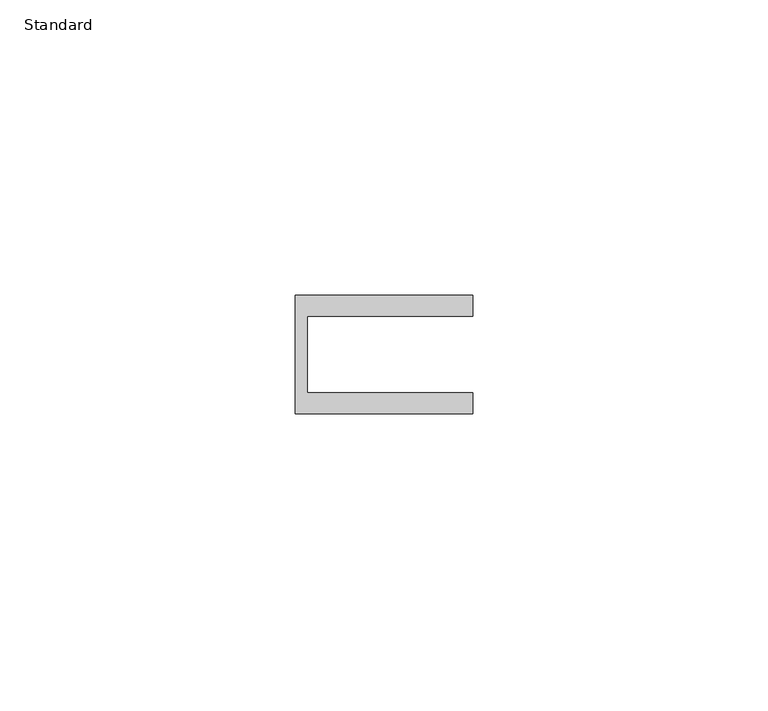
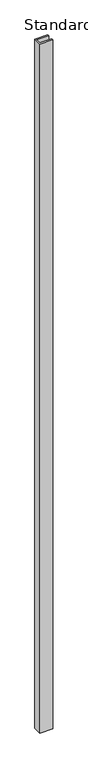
"""IFC4 building model written with IfcOpenShell, lengths in millimetres: furniture geometry, X_Partition-Channel-Duracube-End : Standard."""

from ifc_helpers import new_model, si_unit, frame, origin, place, context, project, spatial, polyline, outline, extrude, source, transform, mapped, element, save


def standard_ba3eb68e(model_context):
    return source(origin(), model_context, "Body", "SweptSolid", [
        extrude(outline(polyline([(31.7003264, 0.0), (31.7003264, -13.0), (59.7003264, -13.0), (59.7003264, -16.5), (29.7003264, -16.5), (29.7003264, 3.5), (59.7003264, 3.5), (59.7003264, 0.0), (31.7003264, 0.0)])), frame((0.0, 0.0, 200.0), z_axis=(0.0, 0.0, 1.0), x_axis=(1.0, 0.0, 0.0)), (0.0, 0.0, 1.0), 1700.0),
    ])


if __name__ == "__main__":
    model = new_model("IFC4")
    model_context = context("Model", 3, world=origin())
    ifc_project = project(units=[si_unit("LENGTHUNIT", "METRE", prefix="MILLI")], contexts=[model_context])
    site = spatial("IfcSite", under=ifc_project)
    building = spatial("IfcBuilding", under=site)
    placement = place(None, origin())
    standard_shape = standard_ba3eb68e(model_context)
    element("IfcFurniture", 1, ObjectType="X_Partition-Channel-Duracube-End : Standard", at=placement, inside=building, context=model_context, shape_type="MappedRepresentation", body=[
        mapped(standard_shape, transform((0.0, 0.0, 0.0), x_axis=(1.0, 0.0, 0.0), y_axis=(0.0, 1.0, 0.0), z_axis=(0.0, 0.0, 1.0))),
    ])
    save(model, "model.ifc")
